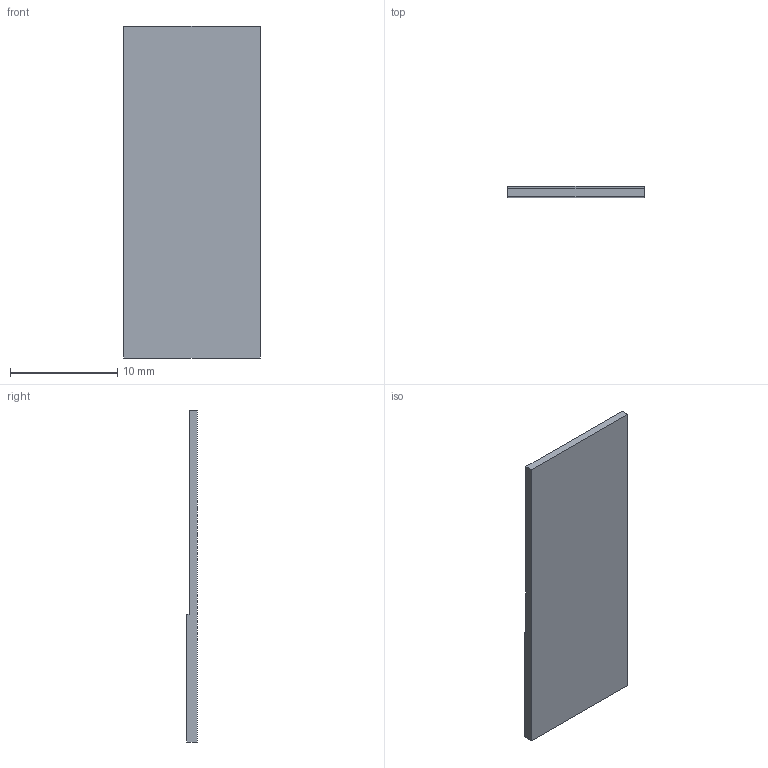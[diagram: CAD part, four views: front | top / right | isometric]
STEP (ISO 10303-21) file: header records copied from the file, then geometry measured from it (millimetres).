
FILE_DESCRIPTION (( 'STEP AP214' ), '1' );
FILE_NAME ('spacer.STEP', '2026-08-27T08:17:42', ( '' ), ( '' ), 'SwSTEP 2.0', 'SolidWorks 2025', '' );
FILE_SCHEMA (( 'AUTOMOTIVE_DESIGN' ));
Length unit declared in the file: millimetre
Products named in the file (1): spacer
Bounding box: 12.7 x 1.02 x 31 mm (x, y, z)
Volume: 338.5 mm3; surface area: 866.5 mm2
Topology: 1 solids, 1 shells, 8 faces, 18 edges, 12 vertices
Faces by surface type: plane 8
Entity records: 245 total; most frequent: CARTESIAN_POINT 39, DIRECTION 36, ORIENTED_EDGE 36, VECTOR 18, LINE 18, EDGE_CURVE 18, VERTEX_POINT 12, AXIS2_PLACEMENT_3D 9
